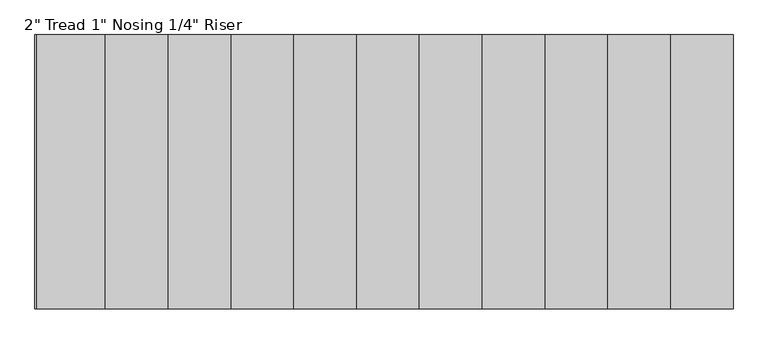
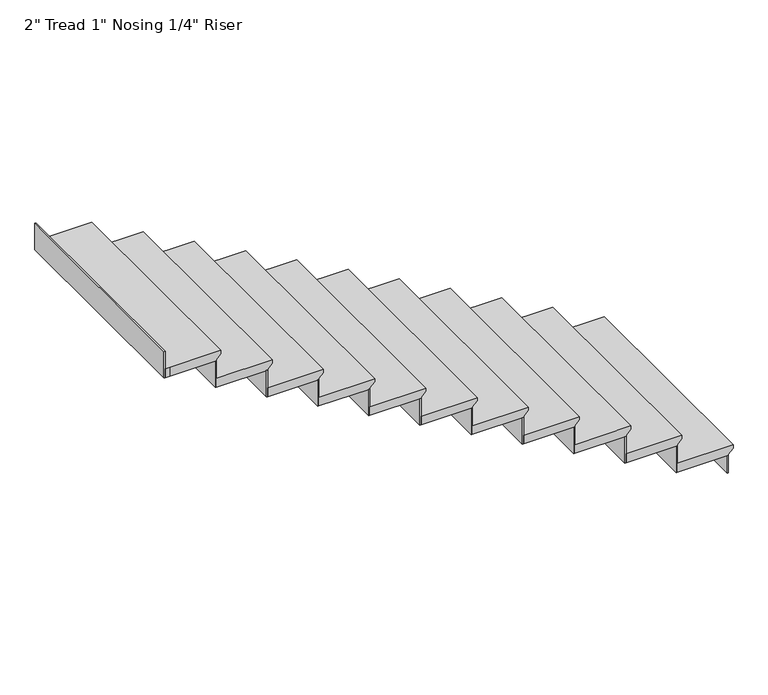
"""IFC4 building model written with IfcOpenShell, lengths in millimetres: stair flight geometry."""

from ifc_helpers import new_model, si_unit, origin, place, context, project, spatial, faceted_brep, source, transform, mapped, element, save


def stair_flight_b5afe949(model_context):
    return source(origin(), model_context, "Body", "Brep", [
        faceted_brep([(-14747.5273699, -13711.4253362, 133.35), (-14747.5273699, -13711.4253362, 152.4), (-14747.5273699, -14930.6253362, 152.4), (-14747.5273699, -14930.6253362, 133.35), (-14772.9273699, -13711.4253362, 107.95), (-14772.9273699, -14930.6253362, 107.95), (-15052.3273699, -13711.4253362, 152.4), (-15052.3273699, -14930.6253362, 152.4), (-14772.9273699, -14930.6253362, 101.6), (-15052.3273699, -14930.6253362, 101.6), (-15052.3273699, -13711.4253362, 101.6), (-14772.9273699, -13711.4253362, 101.6)], [[[0, 1, 2, 3]], [[4, 0, 3, 5]], [[2, 1, 6, 7]], [[8, 9, 10, 11]], [[2, 7, 9, 8, 5, 3]], [[8, 11, 4, 5]], [[6, 1, 0, 4, 11, 10]], [[7, 6, 10, 9]]]),
        faceted_brep([(-14772.9273699, -13711.4253362, 101.6), (-14772.9273699, -13711.4253362, 0.0), (-14779.2773699, -13711.4253362, 0.0), (-14779.2773699, -13711.4253362, 101.6), (-14772.9273699, -14930.6253362, 101.6), (-14779.2773699, -14930.6253362, 101.6), (-14779.2773699, -14930.6253362, 0.0), (-14772.9273699, -14930.6253362, 0.0)], [[[0, 1, 2, 3]], [[4, 5, 6, 7]], [[1, 0, 4, 7]], [[2, 1, 7, 6]], [[3, 2, 6, 5]], [[0, 3, 5, 4]]]),
        faceted_brep([(-15052.3273699, -13711.4253362, 254.0), (-15052.3273699, -13711.4253362, 101.6), (-15058.6773699, -13711.4253362, 101.6), (-15058.6773699, -13711.4253362, 254.0), (-15052.3273699, -14930.6253362, 254.0), (-15058.6773699, -14930.6253362, 254.0), (-15058.6773699, -14930.6253362, 101.6), (-15052.3273699, -14930.6253362, 101.6)], [[[0, 1, 2, 3]], [[4, 5, 6, 7]], [[1, 0, 4, 7]], [[2, 1, 7, 6]], [[3, 2, 6, 5]], [[0, 3, 5, 4]]]),
        faceted_brep([(-15026.9273699, -14930.6253362, 304.8), (-15026.9273699, -13711.4253362, 304.8), (-15331.7273699, -13711.4253362, 304.8), (-15331.7273699, -14930.6253362, 304.8), (-15052.3273699, -14930.6253362, 254.0), (-15331.7273699, -14930.6253362, 254.0), (-15331.7273699, -13711.4253362, 254.0), (-15052.3273699, -13711.4253362, 254.0), (-15052.3273699, -14930.6253362, 260.35), (-15026.9273699, -14930.6253362, 285.75), (-15052.3273699, -13711.4253362, 260.35), (-15026.9273699, -13711.4253362, 285.75)], [[[0, 1, 2, 3]], [[4, 5, 6, 7]], [[0, 3, 5, 4, 8, 9]], [[4, 7, 10, 8]], [[2, 1, 11, 10, 7, 6]], [[3, 2, 6, 5]], [[11, 1, 0, 9]], [[10, 11, 9, 8]]]),
        faceted_brep([(-15331.7273699, -13711.4253362, 406.4), (-15331.7273699, -13711.4253362, 254.0), (-15338.0773699, -13711.4253362, 254.0), (-15338.0773699, -13711.4253362, 406.4), (-15331.7273699, -14930.6253362, 406.4), (-15338.0773699, -14930.6253362, 406.4), (-15338.0773699, -14930.6253362, 254.0), (-15331.7273699, -14930.6253362, 254.0)], [[[0, 1, 2, 3]], [[4, 5, 6, 7]], [[1, 0, 4, 7]], [[2, 1, 7, 6]], [[3, 2, 6, 5]], [[0, 3, 5, 4]]]),
        faceted_brep([(-15306.3273699, -14930.6253362, 457.2), (-15306.3273699, -13711.4253362, 457.2), (-15611.1273699, -13711.4253362, 457.2), (-15611.1273699, -14930.6253362, 457.2), (-15331.7273699, -14930.6253362, 406.4), (-15611.1273699, -14930.6253362, 406.4), (-15611.1273699, -13711.4253362, 406.4), (-15331.7273699, -13711.4253362, 406.4), (-15331.7273699, -14930.6253362, 412.75), (-15306.3273699, -14930.6253362, 438.15), (-15331.7273699, -13711.4253362, 412.75), (-15306.3273699, -13711.4253362, 438.15)], [[[0, 1, 2, 3]], [[4, 5, 6, 7]], [[0, 3, 5, 4, 8, 9]], [[4, 7, 10, 8]], [[2, 1, 11, 10, 7, 6]], [[3, 2, 6, 5]], [[11, 1, 0, 9]], [[10, 11, 9, 8]]]),
        faceted_brep([(-15611.1273699, -13711.4253362, 558.8), (-15611.1273699, -13711.4253362, 406.4), (-15617.4773699, -13711.4253362, 406.4), (-15617.4773699, -13711.4253362, 558.8), (-15611.1273699, -14930.6253362, 558.8), (-15617.4773699, -14930.6253362, 558.8), (-15617.4773699, -14930.6253362, 406.4), (-15611.1273699, -14930.6253362, 406.4)], [[[0, 1, 2, 3]], [[4, 5, 6, 7]], [[1, 0, 4, 7]], [[2, 1, 7, 6]], [[3, 2, 6, 5]], [[0, 3, 5, 4]]]),
        faceted_brep([(-15585.7273699, -14930.6253362, 609.6), (-15585.7273699, -13711.4253362, 609.6), (-15890.5273699, -13711.4253362, 609.6), (-15890.5273699, -14930.6253362, 609.6), (-15611.1273699, -14930.6253362, 558.8), (-15890.5273699, -14930.6253362, 558.8), (-15890.5273699, -13711.4253362, 558.8), (-15611.1273699, -13711.4253362, 558.8), (-15611.1273699, -14930.6253362, 565.15), (-15585.7273699, -14930.6253362, 590.55), (-15611.1273699, -13711.4253362, 565.15), (-15585.7273699, -13711.4253362, 590.55)], [[[0, 1, 2, 3]], [[4, 5, 6, 7]], [[0, 3, 5, 4, 8, 9]], [[4, 7, 10, 8]], [[2, 1, 11, 10, 7, 6]], [[3, 2, 6, 5]], [[11, 1, 0, 9]], [[10, 11, 9, 8]]]),
        faceted_brep([(-15890.5273699, -13711.4253362, 711.2), (-15890.5273699, -13711.4253362, 558.8), (-15896.8773699, -13711.4253362, 558.8), (-15896.8773699, -13711.4253362, 711.2), (-15890.5273699, -14930.6253362, 711.2), (-15896.8773699, -14930.6253362, 711.2), (-15896.8773699, -14930.6253362, 558.8), (-15890.5273699, -14930.6253362, 558.8)], [[[0, 1, 2, 3]], [[4, 5, 6, 7]], [[1, 0, 4, 7]], [[2, 1, 7, 6]], [[3, 2, 6, 5]], [[0, 3, 5, 4]]]),
        faceted_brep([(-15865.1273699, -14930.6253362, 762.0), (-15865.1273699, -13711.4253362, 762.0), (-16169.9273699, -13711.4253362, 762.0), (-16169.9273699, -14930.6253362, 762.0), (-15890.5273699, -14930.6253362, 711.2), (-16169.9273699, -14930.6253362, 711.2), (-16169.9273699, -13711.4253362, 711.2), (-15890.5273699, -13711.4253362, 711.2), (-15890.5273699, -14930.6253362, 717.55), (-15865.1273699, -14930.6253362, 742.95), (-15890.5273699, -13711.4253362, 717.55), (-15865.1273699, -13711.4253362, 742.95)], [[[0, 1, 2, 3]], [[4, 5, 6, 7]], [[0, 3, 5, 4, 8, 9]], [[4, 7, 10, 8]], [[2, 1, 11, 10, 7, 6]], [[3, 2, 6, 5]], [[11, 1, 0, 9]], [[10, 11, 9, 8]]]),
        faceted_brep([(-16169.9273699, -13711.4253362, 863.6), (-16169.9273699, -13711.4253362, 711.2), (-16176.2773699, -13711.4253362, 711.2), (-16176.2773699, -13711.4253362, 863.6), (-16169.9273699, -14930.6253362, 863.6), (-16176.2773699, -14930.6253362, 863.6), (-16176.2773699, -14930.6253362, 711.2), (-16169.9273699, -14930.6253362, 711.2)], [[[0, 1, 2, 3]], [[4, 5, 6, 7]], [[1, 0, 4, 7]], [[2, 1, 7, 6]], [[3, 2, 6, 5]], [[0, 3, 5, 4]]]),
        faceted_brep([(-16144.5273699, -14930.6253362, 914.4), (-16144.5273699, -13711.4253362, 914.4), (-16449.3273699, -13711.4253362, 914.4), (-16449.3273699, -14930.6253362, 914.4), (-16169.9273699, -14930.6253362, 863.6), (-16449.3273699, -14930.6253362, 863.6), (-16449.3273699, -13711.4253362, 863.6), (-16169.9273699, -13711.4253362, 863.6), (-16169.9273699, -14930.6253362, 869.95), (-16144.5273699, -14930.6253362, 895.35), (-16169.9273699, -13711.4253362, 869.95), (-16144.5273699, -13711.4253362, 895.35)], [[[0, 1, 2, 3]], [[4, 5, 6, 7]], [[0, 3, 5, 4, 8, 9]], [[4, 7, 10, 8]], [[2, 1, 11, 10, 7, 6]], [[3, 2, 6, 5]], [[11, 1, 0, 9]], [[10, 11, 9, 8]]]),
        faceted_brep([(-16449.3273699, -13711.4253362, 1016.0), (-16449.3273699, -13711.4253362, 863.6), (-16455.6773699, -13711.4253362, 863.6), (-16455.6773699, -13711.4253362, 1016.0), (-16449.3273699, -14930.6253362, 1016.0), (-16455.6773699, -14930.6253362, 1016.0), (-16455.6773699, -14930.6253362, 863.6), (-16449.3273699, -14930.6253362, 863.6)], [[[0, 1, 2, 3]], [[4, 5, 6, 7]], [[1, 0, 4, 7]], [[2, 1, 7, 6]], [[3, 2, 6, 5]], [[0, 3, 5, 4]]]),
        faceted_brep([(-16423.9273699, -14930.6253362, 1066.8), (-16423.9273699, -13711.4253362, 1066.8), (-16728.7273699, -13711.4253362, 1066.8), (-16728.7273699, -14930.6253362, 1066.8), (-16449.3273699, -14930.6253362, 1016.0), (-16728.7273699, -14930.6253362, 1016.0), (-16728.7273699, -13711.4253362, 1016.0), (-16449.3273699, -13711.4253362, 1016.0), (-16449.3273699, -14930.6253362, 1022.35), (-16423.9273699, -14930.6253362, 1047.75), (-16449.3273699, -13711.4253362, 1022.35), (-16423.9273699, -13711.4253362, 1047.75)], [[[0, 1, 2, 3]], [[4, 5, 6, 7]], [[0, 3, 5, 4, 8, 9]], [[4, 7, 10, 8]], [[2, 1, 11, 10, 7, 6]], [[3, 2, 6, 5]], [[11, 1, 0, 9]], [[10, 11, 9, 8]]]),
        faceted_brep([(-16728.7273699, -13711.4253362, 1168.4), (-16728.7273699, -13711.4253362, 1016.0), (-16735.0773699, -13711.4253362, 1016.0), (-16735.0773699, -13711.4253362, 1168.4), (-16728.7273699, -14930.6253362, 1168.4), (-16735.0773699, -14930.6253362, 1168.4), (-16735.0773699, -14930.6253362, 1016.0), (-16728.7273699, -14930.6253362, 1016.0)], [[[0, 1, 2, 3]], [[4, 5, 6, 7]], [[1, 0, 4, 7]], [[2, 1, 7, 6]], [[3, 2, 6, 5]], [[0, 3, 5, 4]]]),
        faceted_brep([(-16703.3273699, -14930.6253362, 1219.2), (-16703.3273699, -13711.4253362, 1219.2), (-17008.1273699, -13711.4253362, 1219.2), (-17008.1273699, -14930.6253362, 1219.2), (-16728.7273699, -14930.6253362, 1168.4), (-17008.1273699, -14930.6253362, 1168.4), (-17008.1273699, -13711.4253362, 1168.4), (-16728.7273699, -13711.4253362, 1168.4), (-16728.7273699, -14930.6253362, 1174.75), (-16703.3273699, -14930.6253362, 1200.15), (-16728.7273699, -13711.4253362, 1174.75), (-16703.3273699, -13711.4253362, 1200.15)], [[[0, 1, 2, 3]], [[4, 5, 6, 7]], [[0, 3, 5, 4, 8, 9]], [[4, 7, 10, 8]], [[2, 1, 11, 10, 7, 6]], [[3, 2, 6, 5]], [[11, 1, 0, 9]], [[10, 11, 9, 8]]]),
        faceted_brep([(-17008.1273699, -13711.4253362, 1320.8), (-17008.1273699, -13711.4253362, 1168.4), (-17014.4773699, -13711.4253362, 1168.4), (-17014.4773699, -13711.4253362, 1320.8), (-17008.1273699, -14930.6253362, 1320.8), (-17014.4773699, -14930.6253362, 1320.8), (-17014.4773699, -14930.6253362, 1168.4), (-17008.1273699, -14930.6253362, 1168.4)], [[[0, 1, 2, 3]], [[4, 5, 6, 7]], [[1, 0, 4, 7]], [[2, 1, 7, 6]], [[3, 2, 6, 5]], [[0, 3, 5, 4]]]),
        faceted_brep([(-16982.7273699, -14930.6253362, 1371.6), (-16982.7273699, -13711.4253362, 1371.6), (-17287.5273699, -13711.4253362, 1371.6), (-17287.5273699, -14930.6253362, 1371.6), (-17008.1273699, -14930.6253362, 1320.8), (-17287.5273699, -14930.6253362, 1320.8), (-17287.5273699, -13711.4253362, 1320.8), (-17008.1273699, -13711.4253362, 1320.8), (-17008.1273699, -14930.6253362, 1327.15), (-16982.7273699, -14930.6253362, 1352.55), (-17008.1273699, -13711.4253362, 1327.15), (-16982.7273699, -13711.4253362, 1352.55)], [[[0, 1, 2, 3]], [[4, 5, 6, 7]], [[0, 3, 5, 4, 8, 9]], [[4, 7, 10, 8]], [[2, 1, 11, 10, 7, 6]], [[3, 2, 6, 5]], [[11, 1, 0, 9]], [[10, 11, 9, 8]]]),
        faceted_brep([(-17287.5273699, -13711.4253362, 1473.2), (-17287.5273699, -13711.4253362, 1320.8), (-17293.8773699, -13711.4253362, 1320.8), (-17293.8773699, -13711.4253362, 1473.2), (-17287.5273699, -14930.6253362, 1473.2), (-17293.8773699, -14930.6253362, 1473.2), (-17293.8773699, -14930.6253362, 1320.8), (-17287.5273699, -14930.6253362, 1320.8)], [[[0, 1, 2, 3]], [[4, 5, 6, 7]], [[1, 0, 4, 7]], [[2, 1, 7, 6]], [[3, 2, 6, 5]], [[0, 3, 5, 4]]]),
        faceted_brep([(-17262.1273699, -14930.6253362, 1524.0), (-17262.1273699, -13711.4253362, 1524.0), (-17566.9273699, -13711.4253362, 1524.0), (-17566.9273699, -14930.6253362, 1524.0), (-17287.5273699, -14930.6253362, 1473.2), (-17566.9273699, -14930.6253362, 1473.2), (-17566.9273699, -13711.4253362, 1473.2), (-17287.5273699, -13711.4253362, 1473.2), (-17287.5273699, -14930.6253362, 1479.55), (-17262.1273699, -14930.6253362, 1504.95), (-17287.5273699, -13711.4253362, 1479.55), (-17262.1273699, -13711.4253362, 1504.95)], [[[0, 1, 2, 3]], [[4, 5, 6, 7]], [[0, 3, 5, 4, 8, 9]], [[4, 7, 10, 8]], [[2, 1, 11, 10, 7, 6]], [[3, 2, 6, 5]], [[11, 1, 0, 9]], [[10, 11, 9, 8]]]),
        faceted_brep([(-17846.3273699, -13711.4253362, 1778.0), (-17846.3273699, -13711.4253362, 1625.6), (-17852.6773699, -13711.4253362, 1625.6), (-17852.6773699, -13711.4253362, 1778.0), (-17846.3273699, -14930.6253362, 1778.0), (-17852.6773699, -14930.6253362, 1778.0), (-17852.6773699, -14930.6253362, 1625.6), (-17846.3273699, -14930.6253362, 1625.6)], [[[0, 1, 2, 3]], [[4, 5, 6, 7]], [[1, 0, 4, 7]], [[2, 1, 7, 6]], [[3, 2, 6, 5]], [[0, 3, 5, 4]]]),
        faceted_brep([(-17566.9273699, -13711.4253362, 1625.6), (-17566.9273699, -13711.4253362, 1473.2), (-17573.2773699, -13711.4253362, 1473.2), (-17573.2773699, -13711.4253362, 1625.6), (-17566.9273699, -14930.6253362, 1625.6), (-17573.2773699, -14930.6253362, 1625.6), (-17573.2773699, -14930.6253362, 1473.2), (-17566.9273699, -14930.6253362, 1473.2)], [[[0, 1, 2, 3]], [[4, 5, 6, 7]], [[1, 0, 4, 7]], [[2, 1, 7, 6]], [[3, 2, 6, 5]], [[0, 3, 5, 4]]]),
        faceted_brep([(-17846.3273699, -14930.6253362, 1676.4), (-17820.9273699, -14930.6253362, 1676.4), (-17541.5273699, -14930.6253362, 1676.4), (-17541.5273699, -13711.4253362, 1676.4), (-17820.9273699, -13711.4253362, 1676.4), (-17846.3273699, -13711.4253362, 1676.4), (-17820.9273699, -14930.6253362, 1625.6), (-17846.3273699, -14930.6253362, 1625.6), (-17846.3273699, -13711.4253362, 1625.6), (-17820.9273699, -13711.4253362, 1625.6), (-17566.9273699, -13711.4253362, 1625.6), (-17566.9273699, -14930.6253362, 1625.6), (-17566.9273699, -14930.6253362, 1631.95), (-17541.5273699, -14930.6253362, 1657.35), (-17566.9273699, -13711.4253362, 1631.95), (-17541.5273699, -13711.4253362, 1657.35)], [[[0, 1, 2, 3, 4, 5]], [[6, 7, 8, 9, 10, 11]], [[1, 0, 7, 6]], [[2, 1, 6, 11, 12, 13]], [[11, 10, 14, 12]], [[4, 3, 15, 14, 10, 9]], [[5, 4, 9, 8]], [[0, 5, 8, 7]], [[15, 3, 2, 13]], [[14, 15, 13, 12]]]),
    ])


if __name__ == "__main__":
    model = new_model("IFC4")
    model_context = context("Model", 3, world=origin())
    ifc_project = project(units=[si_unit("LENGTHUNIT", "METRE", prefix="MILLI")], contexts=[model_context])
    site = spatial("IfcSite", under=ifc_project)
    building = spatial("IfcBuilding", under=site)
    placement = place(None, origin())
    stair_flight_shape = stair_flight_b5afe949(model_context)
    element("IfcStairFlight", 1, ObjectType="2\" Tread 1\" Nosing 1/4\" Riser", at=placement, inside=building, context=model_context, shape_type="MappedRepresentation", body=[
        mapped(stair_flight_shape, transform((0.0, 0.0, 0.0), x_axis=(1.0, 0.0, 0.0), y_axis=(0.0, 1.0, 0.0), z_axis=(0.0, 0.0, 1.0))),
    ])
    save(model, "model.ifc")
